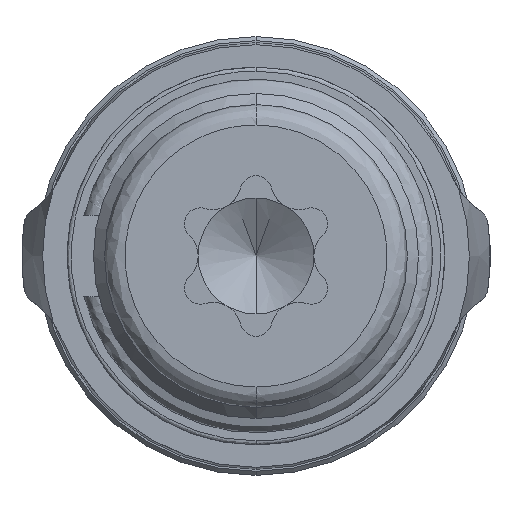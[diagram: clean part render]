
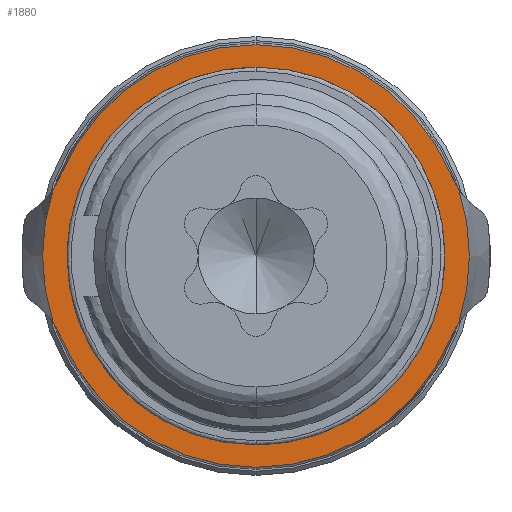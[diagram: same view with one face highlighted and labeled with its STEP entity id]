
A CAD part, front view. The second image highlights one B-rep face of the part: STEP entity #1880.
In plain terms, the highlighted planar face has unit normal (0, -1, 0).
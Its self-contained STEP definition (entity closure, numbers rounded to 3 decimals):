
#9 = EDGE_CURVE ( 'NONE', #562, #3553, #3951, .T. ) ;
#14 = ORIENTED_EDGE ( 'NONE', *, *, #30, .T. ) ;
#21 = EDGE_CURVE ( 'NONE', #2829, #1152, #743, .T. ) ;
#30 = EDGE_CURVE ( 'NONE', #1407, #3553, #997, .T. ) ;
#32 = CARTESIAN_POINT ( 'NONE',  ( 0., 10.05, 0. ) ) ;
#49 = AXIS2_PLACEMENT_3D ( 'NONE', #1988, #1973, #1963 ) ;
#122 = DIRECTION ( 'NONE',  ( 0., 0., -1. ) ) ;
#126 = CARTESIAN_POINT ( 'NONE',  ( 4.984, 10.05, -1.655 ) ) ;
#130 = DIRECTION ( 'NONE',  ( 0., 0., 1. ) ) ;
#132 = CARTESIAN_POINT ( 'NONE',  ( 4.801, 10.05, 1.997 ) ) ;
#146 = DIRECTION ( 'NONE',  ( 0., 1., 0. ) ) ;
#149 = CARTESIAN_POINT ( 'NONE',  ( -4.801, 10.05, -1.997 ) ) ;
#154 = EDGE_CURVE ( 'NONE', #3859, #1863, #2883, .T. ) ;
#191 = EDGE_CURVE ( 'NONE', #3859, #963, #3968, .T. ) ;
#195 = CARTESIAN_POINT ( 'NONE',  ( 0., 10.05, 5.2 ) ) ;
#198 = DIRECTION ( 'NONE',  ( 0., -1., 0. ) ) ;
#222 = FACE_OUTER_BOUND ( 'NONE', #2307, .T. ) ;
#245 = AXIS2_PLACEMENT_3D ( 'NONE', #3370, #198, #1531 ) ;
#461 = CARTESIAN_POINT ( 'NONE',  ( 0., 10.05, -4.65 ) ) ;
#492 = EDGE_CURVE ( 'NONE', #3034, #1863, #3817, .T. ) ;
#497 = DIRECTION ( 'NONE',  ( 0., 0., 1. ) ) ;
#544 = CIRCLE ( 'NONE', #245, 4.65 ) ;
#562 = VERTEX_POINT ( 'NONE', #195 ) ;
#563 = DIRECTION ( 'NONE',  ( 0., 1., 0. ) ) ;
#610 = AXIS2_PLACEMENT_3D ( 'NONE', #2494, #2460, #122 ) ;
#659 = DIRECTION ( 'NONE',  ( 0., 0., 1. ) ) ;
#743 = CIRCLE ( 'NONE', #1466, 2. ) ;
#929 = EDGE_CURVE ( 'NONE', #2829, #562, #3447, .T. ) ;
#956 = ORIENTED_EDGE ( 'NONE', *, *, #154, .F. ) ;
#963 = VERTEX_POINT ( 'NONE', #126 ) ;
#969 = ORIENTED_EDGE ( 'NONE', *, *, #3779, .T. ) ;
#983 = VERTEX_POINT ( 'NONE', #3091 ) ;
#997 = CIRCLE ( 'NONE', #2013, 2. ) ;
#1116 = DIRECTION ( 'NONE',  ( 0., 1., 0. ) ) ;
#1127 = CARTESIAN_POINT ( 'NONE',  ( 0., 10.05, 0. ) ) ;
#1142 = CARTESIAN_POINT ( 'NONE',  ( 4.984, 10.05, 1.655 ) ) ;
#1152 = VERTEX_POINT ( 'NONE', #2968 ) ;
#1237 = CARTESIAN_POINT ( 'NONE',  ( 0., 10.05, 0. ) ) ;
#1250 = DIRECTION ( 'NONE',  ( 0., -1., 0. ) ) ;
#1277 = DIRECTION ( 'NONE',  ( 0., 0., 1. ) ) ;
#1407 = VERTEX_POINT ( 'NONE', #1142 ) ;
#1434 = EDGE_CURVE ( 'NONE', #1152, #3034, #3906, .T. ) ;
#1449 = DIRECTION ( 'NONE',  ( 0., 1., 0. ) ) ;
#1452 = AXIS2_PLACEMENT_3D ( 'NONE', #1127, #1116, #2915 ) ;
#1454 = CARTESIAN_POINT ( 'NONE',  ( 6.648, 10.05, -2.765 ) ) ;
#1466 = AXIS2_PLACEMENT_3D ( 'NONE', #2062, #563, #497 ) ;
#1482 = DIRECTION ( 'NONE',  ( 0., 0., -1. ) ) ;
#1531 = DIRECTION ( 'NONE',  ( 0., 0., -1. ) ) ;
#1548 = AXIS2_PLACEMENT_3D ( 'NONE', #1237, #1250, #1277 ) ;
#1608 = AXIS2_PLACEMENT_3D ( 'NONE', #3956, #146, #130 ) ;
#1863 = VERTEX_POINT ( 'NONE', #149 ) ;
#1880 = ADVANCED_FACE ( 'NONE', ( #222, #2297 ), #3545, .T. ) ;
#1963 = DIRECTION ( 'NONE',  ( 0., 0., 1. ) ) ;
#1973 = DIRECTION ( 'NONE',  ( 0., -1., 0. ) ) ;
#1988 = CARTESIAN_POINT ( 'NONE',  ( 0., 10.05, 0. ) ) ;
#2013 = AXIS2_PLACEMENT_3D ( 'NONE', #3870, #3257, #2089 ) ;
#2047 = AXIS2_PLACEMENT_3D ( 'NONE', #2671, #2159, #1482 ) ;
#2062 = CARTESIAN_POINT ( 'NONE',  ( -6.648, 10.05, 2.765 ) ) ;
#2070 = ORIENTED_EDGE ( 'NONE', *, *, #191, .T. ) ;
#2081 = ORIENTED_EDGE ( 'NONE', *, *, #2270, .F. ) ;
#2089 = DIRECTION ( 'NONE',  ( 0., 0., 1. ) ) ;
#2116 = CARTESIAN_POINT ( 'NONE',  ( -4.801, 10.05, 1.997 ) ) ;
#2159 = DIRECTION ( 'NONE',  ( 0., -1., 0. ) ) ;
#2226 = CARTESIAN_POINT ( 'NONE',  ( 4.801, 10.05, -1.997 ) ) ;
#2270 = EDGE_CURVE ( 'NONE', #983, #2343, #544, .T. ) ;
#2283 = AXIS2_PLACEMENT_3D ( 'NONE', #1454, #1449, #659 ) ;
#2297 = FACE_BOUND ( 'NONE', #2984, .T. ) ;
#2307 = EDGE_LOOP ( 'NONE', ( #2434, #2938, #3041, #2561, #956, #2070, #969, #14, #3648 ) ) ;
#2343 = VERTEX_POINT ( 'NONE', #461 ) ;
#2351 = ORIENTED_EDGE ( 'NONE', *, *, #3143, .F. ) ;
#2374 = CIRCLE ( 'NONE', #2047, 4.65 ) ;
#2434 = ORIENTED_EDGE ( 'NONE', *, *, #929, .F. ) ;
#2460 = DIRECTION ( 'NONE',  ( 0., -1., 0. ) ) ;
#2494 = CARTESIAN_POINT ( 'NONE',  ( 0., 10.05, 0. ) ) ;
#2561 = ORIENTED_EDGE ( 'NONE', *, *, #492, .T. ) ;
#2562 = AXIS2_PLACEMENT_3D ( 'NONE', #32, #2920, #2910 ) ;
#2671 = CARTESIAN_POINT ( 'NONE',  ( 0., 10.05, 0. ) ) ;
#2829 = VERTEX_POINT ( 'NONE', #2116 ) ;
#2883 = CIRCLE ( 'NONE', #1608, 5.2 ) ;
#2910 = DIRECTION ( 'NONE',  ( 0., 0., 1. ) ) ;
#2915 = DIRECTION ( 'NONE',  ( 0., 0., 1. ) ) ;
#2920 = DIRECTION ( 'NONE',  ( 0., 1., 0. ) ) ;
#2938 = ORIENTED_EDGE ( 'NONE', *, *, #21, .T. ) ;
#2968 = CARTESIAN_POINT ( 'NONE',  ( -4.984, 10.05, 1.655 ) ) ;
#2984 = EDGE_LOOP ( 'NONE', ( #2351, #2081 ) ) ;
#2991 = CARTESIAN_POINT ( 'NONE',  ( -6.648, 10.05, -2.765 ) ) ;
#3002 = DIRECTION ( 'NONE',  ( 0., 1., 0. ) ) ;
#3034 = VERTEX_POINT ( 'NONE', #3679 ) ;
#3037 = DIRECTION ( 'NONE',  ( 0., 0., 1. ) ) ;
#3041 = ORIENTED_EDGE ( 'NONE', *, *, #1434, .T. ) ;
#3091 = CARTESIAN_POINT ( 'NONE',  ( 0., 10.05, 4.65 ) ) ;
#3143 = EDGE_CURVE ( 'NONE', #2343, #983, #2374, .T. ) ;
#3257 = DIRECTION ( 'NONE',  ( 0., 1., 0. ) ) ;
#3370 = CARTESIAN_POINT ( 'NONE',  ( 0., 10.05, 0. ) ) ;
#3447 = CIRCLE ( 'NONE', #2562, 5.2 ) ;
#3478 = CIRCLE ( 'NONE', #1548, 5.252 ) ;
#3545 = PLANE ( 'NONE',  #610 ) ;
#3553 = VERTEX_POINT ( 'NONE', #132 ) ;
#3648 = ORIENTED_EDGE ( 'NONE', *, *, #9, .F. ) ;
#3679 = CARTESIAN_POINT ( 'NONE',  ( -4.984, 10.05, -1.655 ) ) ;
#3779 = EDGE_CURVE ( 'NONE', #963, #1407, #3478, .T. ) ;
#3817 = CIRCLE ( 'NONE', #3842, 2. ) ;
#3842 = AXIS2_PLACEMENT_3D ( 'NONE', #2991, #3002, #3037 ) ;
#3859 = VERTEX_POINT ( 'NONE', #2226 ) ;
#3870 = CARTESIAN_POINT ( 'NONE',  ( 6.648, 10.05, 2.765 ) ) ;
#3906 = CIRCLE ( 'NONE', #49, 5.252 ) ;
#3951 = CIRCLE ( 'NONE', #1452, 5.2 ) ;
#3956 = CARTESIAN_POINT ( 'NONE',  ( 0., 10.05, 0. ) ) ;
#3968 = CIRCLE ( 'NONE', #2283, 2. ) ;
